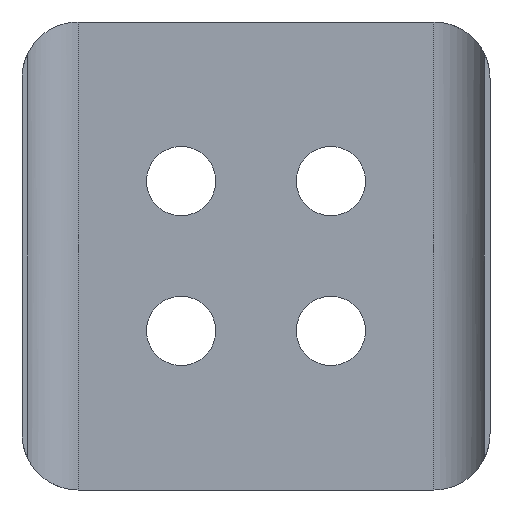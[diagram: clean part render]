
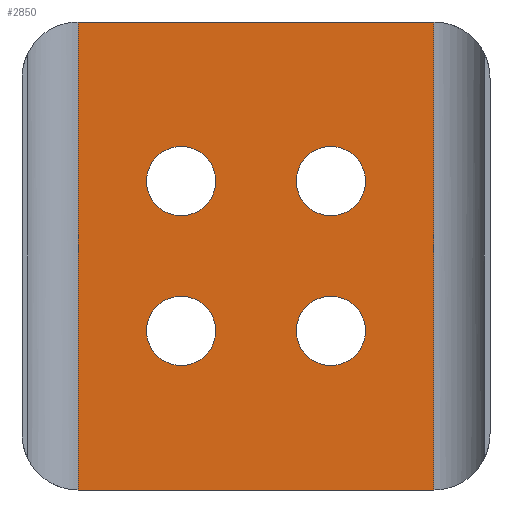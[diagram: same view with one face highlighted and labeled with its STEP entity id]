
A CAD part, front view. The second image highlights one B-rep face of the part: STEP entity #2850.
In plain terms, the highlighted planar face has unit normal (0, -1, 0).
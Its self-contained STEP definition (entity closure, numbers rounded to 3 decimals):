
#192 = DIRECTION ( 'NONE',  ( -1., 0., 0. ) ) ;
#412 = CARTESIAN_POINT ( 'NONE',  ( 4., -0.65, 5.85 ) ) ;
#421 = DIRECTION ( 'NONE',  ( 0., 0., 1. ) ) ;
#468 = DIRECTION ( 'NONE',  ( -1., 0., 0. ) ) ;
#472 = CARTESIAN_POINT ( 'NONE',  ( -4., -0.65, 2.15 ) ) ;
#541 = CIRCLE ( 'NONE', #6009, 1.85 ) ;
#548 = LINE ( 'NONE', #6919, #2577 ) ;
#580 = ORIENTED_EDGE ( 'NONE', *, *, #3028, .F. ) ;
#595 = EDGE_CURVE ( 'NONE', #2116, #5425, #2939, .T. ) ;
#667 = ORIENTED_EDGE ( 'NONE', *, *, #1897, .F. ) ;
#736 = CIRCLE ( 'NONE', #1271, 1.85 ) ;
#782 = AXIS2_PLACEMENT_3D ( 'NONE', #2203, #5175, #5292 ) ;
#795 = CARTESIAN_POINT ( 'NONE',  ( -4., -0.65, -4. ) ) ;
#852 = ORIENTED_EDGE ( 'NONE', *, *, #6292, .T. ) ;
#921 = DIRECTION ( 'NONE',  ( 0., 0., -1. ) ) ;
#974 = DIRECTION ( 'NONE',  ( 0., -1., 0. ) ) ;
#981 = CIRCLE ( 'NONE', #4221, 1.85 ) ;
#1062 = EDGE_CURVE ( 'NONE', #5425, #2116, #3760, .T. ) ;
#1093 = CARTESIAN_POINT ( 'NONE',  ( 9.496, -0.65, -12.5 ) ) ;
#1157 = PLANE ( 'NONE',  #6521 ) ;
#1245 = LINE ( 'NONE', #2239, #1759 ) ;
#1271 = AXIS2_PLACEMENT_3D ( 'NONE', #2581, #974, #3129 ) ;
#1297 = CARTESIAN_POINT ( 'NONE',  ( -9.496, -0.65, -12.5 ) ) ;
#1308 = CIRCLE ( 'NONE', #5059, 1.85 ) ;
#1341 = DIRECTION ( 'NONE',  ( 0., -1., 0. ) ) ;
#1345 = DIRECTION ( 'NONE',  ( 0., -1., 0. ) ) ;
#1401 = CIRCLE ( 'NONE', #1625, 1.85 ) ;
#1617 = DIRECTION ( 'NONE',  ( 0., 0., -1. ) ) ;
#1625 = AXIS2_PLACEMENT_3D ( 'NONE', #4555, #1345, #3441 ) ;
#1642 = CARTESIAN_POINT ( 'NONE',  ( 4., -0.65, 4. ) ) ;
#1652 = LINE ( 'NONE', #6309, #3661 ) ;
#1685 = VERTEX_POINT ( 'NONE', #3205 ) ;
#1759 = VECTOR ( 'NONE', #4059, 1000. ) ;
#1765 = CARTESIAN_POINT ( 'NONE',  ( 9.496, -0.65, -12.5 ) ) ;
#1806 = FACE_BOUND ( 'NONE', #6957, .T. ) ;
#1824 = AXIS2_PLACEMENT_3D ( 'NONE', #795, #1341, #5122 ) ;
#1897 = EDGE_CURVE ( 'NONE', #2797, #3747, #1401, .T. ) ;
#1909 = ORIENTED_EDGE ( 'NONE', *, *, #595, .F. ) ;
#1935 = DIRECTION ( 'NONE',  ( 0., -1., 0. ) ) ;
#2116 = VERTEX_POINT ( 'NONE', #412 ) ;
#2183 = CARTESIAN_POINT ( 'NONE',  ( -4., -0.65, -5.85 ) ) ;
#2203 = CARTESIAN_POINT ( 'NONE',  ( 4., -0.65, 4. ) ) ;
#2239 = CARTESIAN_POINT ( 'NONE',  ( -9.496, -0.65, -12.5 ) ) ;
#2260 = DIRECTION ( 'NONE',  ( -1., 0., 0. ) ) ;
#2392 = AXIS2_PLACEMENT_3D ( 'NONE', #1642, #5437, #1617 ) ;
#2577 = VECTOR ( 'NONE', #468, 1000. ) ;
#2581 = CARTESIAN_POINT ( 'NONE',  ( -4., -0.65, 4. ) ) ;
#2592 = ORIENTED_EDGE ( 'NONE', *, *, #5085, .F. ) ;
#2709 = VERTEX_POINT ( 'NONE', #2183 ) ;
#2797 = VERTEX_POINT ( 'NONE', #4977 ) ;
#2850 = ADVANCED_FACE ( 'NONE', ( #1806, #6532, #5773, #5940, #4499 ), #1157, .F. ) ;
#2859 = CARTESIAN_POINT ( 'NONE',  ( 4., -0.65, 2.15 ) ) ;
#2939 = CIRCLE ( 'NONE', #782, 1.85 ) ;
#3028 = EDGE_CURVE ( 'NONE', #1685, #2709, #4255, .T. ) ;
#3129 = DIRECTION ( 'NONE',  ( 0., 0., -1. ) ) ;
#3170 = EDGE_LOOP ( 'NONE', ( #6495, #2592, #852, #5414 ) ) ;
#3205 = CARTESIAN_POINT ( 'NONE',  ( -4., -0.65, -2.15 ) ) ;
#3359 = VERTEX_POINT ( 'NONE', #5372 ) ;
#3393 = ORIENTED_EDGE ( 'NONE', *, *, #4529, .F. ) ;
#3441 = DIRECTION ( 'NONE',  ( 0., 0., -1. ) ) ;
#3472 = DIRECTION ( 'NONE',  ( 0., 0., -1. ) ) ;
#3661 = VECTOR ( 'NONE', #421, 1000. ) ;
#3730 = DIRECTION ( 'NONE',  ( 0., 0., -1. ) ) ;
#3747 = VERTEX_POINT ( 'NONE', #6294 ) ;
#3760 = CIRCLE ( 'NONE', #2392, 1.85 ) ;
#3763 = LINE ( 'NONE', #6693, #5896 ) ;
#4001 = VERTEX_POINT ( 'NONE', #5573 ) ;
#4020 = EDGE_CURVE ( 'NONE', #4915, #3359, #1245, .T. ) ;
#4039 = EDGE_CURVE ( 'NONE', #4001, #3359, #3763, .T. ) ;
#4059 = DIRECTION ( 'NONE',  ( 0., 0., 1. ) ) ;
#4193 = ORIENTED_EDGE ( 'NONE', *, *, #6121, .F. ) ;
#4221 = AXIS2_PLACEMENT_3D ( 'NONE', #5331, #5804, #921 ) ;
#4255 = CIRCLE ( 'NONE', #1824, 1.85 ) ;
#4300 = EDGE_CURVE ( 'NONE', #6388, #6944, #736, .T. ) ;
#4499 = FACE_OUTER_BOUND ( 'NONE', #3170, .T. ) ;
#4529 = EDGE_CURVE ( 'NONE', #6944, #6388, #981, .T. ) ;
#4555 = CARTESIAN_POINT ( 'NONE',  ( 4., -0.65, -4. ) ) ;
#4757 = ORIENTED_EDGE ( 'NONE', *, *, #4300, .F. ) ;
#4915 = VERTEX_POINT ( 'NONE', #1297 ) ;
#4977 = CARTESIAN_POINT ( 'NONE',  ( 4., -0.65, -2.15 ) ) ;
#5059 = AXIS2_PLACEMENT_3D ( 'NONE', #6965, #5849, #3730 ) ;
#5085 = EDGE_CURVE ( 'NONE', #5408, #4915, #548, .T. ) ;
#5122 = DIRECTION ( 'NONE',  ( 0., 0., -1. ) ) ;
#5175 = DIRECTION ( 'NONE',  ( 0., -1., 0. ) ) ;
#5201 = EDGE_CURVE ( 'NONE', #3747, #2797, #1308, .T. ) ;
#5292 = DIRECTION ( 'NONE',  ( 0., 0., -1. ) ) ;
#5331 = CARTESIAN_POINT ( 'NONE',  ( -4., -0.65, 4. ) ) ;
#5372 = CARTESIAN_POINT ( 'NONE',  ( -9.496, -0.65, 12.5 ) ) ;
#5408 = VERTEX_POINT ( 'NONE', #1093 ) ;
#5414 = ORIENTED_EDGE ( 'NONE', *, *, #4039, .T. ) ;
#5425 = VERTEX_POINT ( 'NONE', #2859 ) ;
#5431 = EDGE_LOOP ( 'NONE', ( #6370, #667 ) ) ;
#5437 = DIRECTION ( 'NONE',  ( 0., -1., 0. ) ) ;
#5573 = CARTESIAN_POINT ( 'NONE',  ( 9.496, -0.65, 12.5 ) ) ;
#5773 = FACE_BOUND ( 'NONE', #6432, .T. ) ;
#5804 = DIRECTION ( 'NONE',  ( 0., -1., 0. ) ) ;
#5849 = DIRECTION ( 'NONE',  ( 0., -1., 0. ) ) ;
#5896 = VECTOR ( 'NONE', #192, 1000. ) ;
#5940 = FACE_BOUND ( 'NONE', #6777, .T. ) ;
#6009 = AXIS2_PLACEMENT_3D ( 'NONE', #6731, #1935, #3472 ) ;
#6040 = DIRECTION ( 'NONE',  ( 0., 1., 0. ) ) ;
#6121 = EDGE_CURVE ( 'NONE', #2709, #1685, #541, .T. ) ;
#6278 = ORIENTED_EDGE ( 'NONE', *, *, #1062, .F. ) ;
#6292 = EDGE_CURVE ( 'NONE', #5408, #4001, #1652, .T. ) ;
#6294 = CARTESIAN_POINT ( 'NONE',  ( 4., -0.65, -5.85 ) ) ;
#6309 = CARTESIAN_POINT ( 'NONE',  ( 9.496, -0.65, -12.5 ) ) ;
#6370 = ORIENTED_EDGE ( 'NONE', *, *, #5201, .F. ) ;
#6388 = VERTEX_POINT ( 'NONE', #472 ) ;
#6432 = EDGE_LOOP ( 'NONE', ( #6278, #1909 ) ) ;
#6495 = ORIENTED_EDGE ( 'NONE', *, *, #4020, .F. ) ;
#6521 = AXIS2_PLACEMENT_3D ( 'NONE', #1765, #6040, #2260 ) ;
#6532 = FACE_BOUND ( 'NONE', #5431, .T. ) ;
#6693 = CARTESIAN_POINT ( 'NONE',  ( 9.496, -0.65, 12.5 ) ) ;
#6731 = CARTESIAN_POINT ( 'NONE',  ( -4., -0.65, -4. ) ) ;
#6777 = EDGE_LOOP ( 'NONE', ( #4757, #3393 ) ) ;
#6900 = CARTESIAN_POINT ( 'NONE',  ( -4., -0.65, 5.85 ) ) ;
#6919 = CARTESIAN_POINT ( 'NONE',  ( 9.496, -0.65, -12.5 ) ) ;
#6944 = VERTEX_POINT ( 'NONE', #6900 ) ;
#6957 = EDGE_LOOP ( 'NONE', ( #4193, #580 ) ) ;
#6965 = CARTESIAN_POINT ( 'NONE',  ( 4., -0.65, -4. ) ) ;
